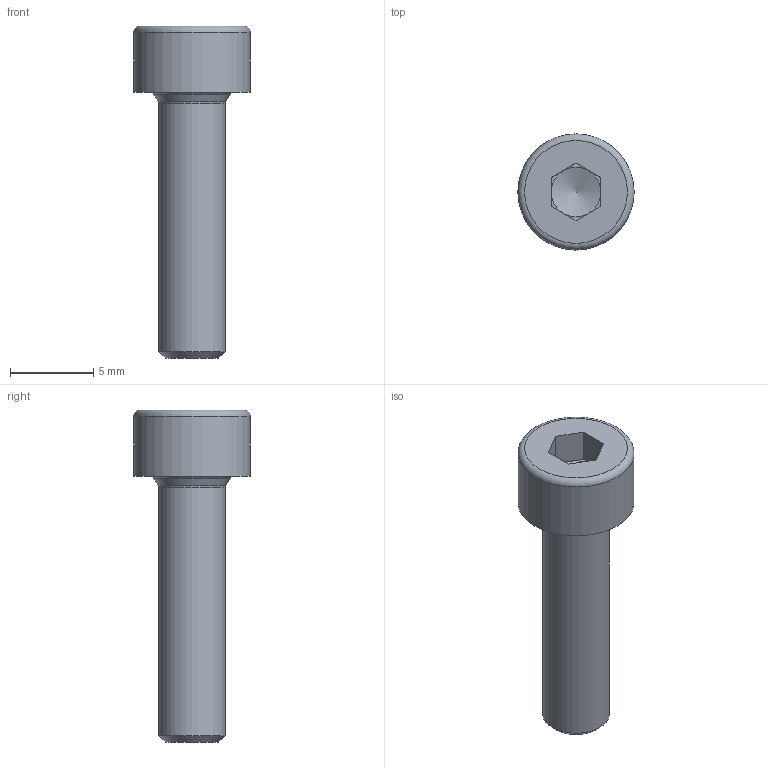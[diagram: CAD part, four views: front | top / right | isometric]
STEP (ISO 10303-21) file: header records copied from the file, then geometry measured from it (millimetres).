
FILE_DESCRIPTION(/* description */ ('STEP AP242 Edition 2','CAx-IF Rec.Pracs.---Representation and Presentation of Product Manufacturing Information (PMI)---4.0---2014-10-13','CAx-IF Rec.Pracs.---3D Tessellated Geometry---0.4---2014-09-14','2;1','CAx-IF Rec.Pracs.---User Defined Attributes---1.5---2016-08-15'),/* implementation_level */ '2;1');
FILE_NAME(/* name */ 'Assy_ForMFG - Hex socket head cap screw M4x0.70 x 16 (30)',/* time_stamp */ '2026-05-15T19:56:15Z',/* author */ (''),/* organization */ (''),/* preprocessor_version */ 'ST-DEVELOPER v20',/* originating_system */ 'ONSHAPE BY PTC INC, 1.215',/* authorisation */ ' ');
FILE_SCHEMA (('AP242_MANAGED_MODEL_BASED_3D_ENGINEERING_MIM_LF { 1 0 10303 442 3 1 4 }'));
Length unit declared in the file: metre
Products named in the file (1): Hex socket head cap screw M4x0.70 x 16
Bounding box: 7 x 7 x 20 mm (x, y, z)
Volume: 338 mm3; surface area: 377.2 mm2
Topology: 1 solids, 1 shells, 23 faces, 49 edges, 29 vertices
Faces by surface type: plane 15, torus 3, cone 3, cylinder 2
Full cylindrical faces by diameter (mm): 4 x1, 7 x1
Entity records: 578 total; most frequent: DIRECTION 102, CARTESIAN_POINT 91, ORIENTED_EDGE 78, EDGE_CURVE 39, AXIS2_PLACEMENT_3D 39, FACE_BOUND 33, EDGE_LOOP 32, VERTEX_POINT 28
